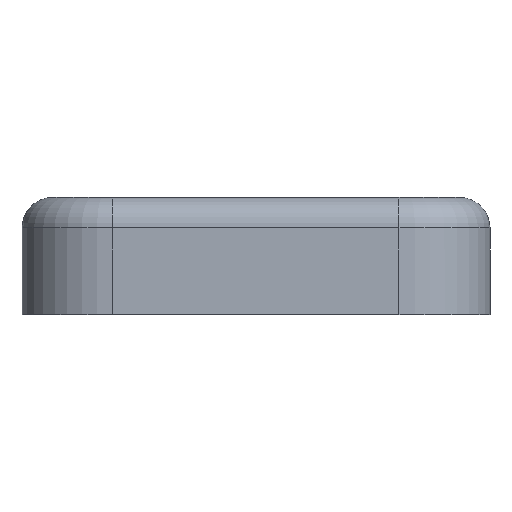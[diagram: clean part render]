
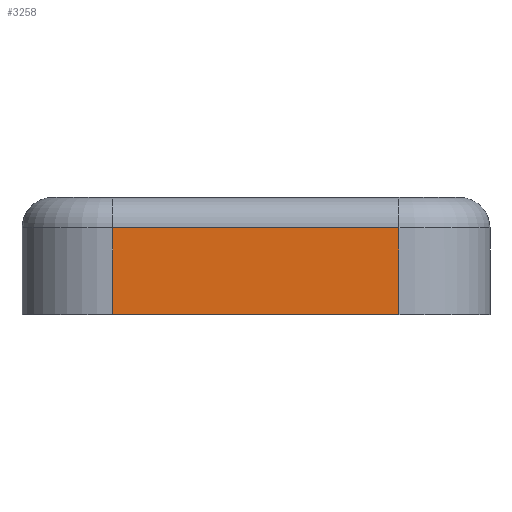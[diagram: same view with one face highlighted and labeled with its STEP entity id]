
A CAD part, front view. The second image highlights one B-rep face of the part: STEP entity #3258.
In plain terms, the highlighted planar face has unit normal (0, -1, 0).
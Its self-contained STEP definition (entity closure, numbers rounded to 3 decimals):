
#184=LINE('',#4671,#511);
#345=LINE('',#5165,#672);
#348=LINE('',#5178,#675);
#456=LINE('',#5481,#783);
#511=VECTOR('',#3697,10.);
#672=VECTOR('',#4124,10.);
#675=VECTOR('',#4143,10.);
#783=VECTOR('',#4517,10.);
#955=FACE_OUTER_BOUND('',#1162,.T.);
#1162=EDGE_LOOP('',(#2983,#2984,#2985,#2986));
#1355=VERTEX_POINT('',#4668);
#1356=VERTEX_POINT('',#4670);
#1545=VERTEX_POINT('',#5159);
#1546=VERTEX_POINT('',#5163);
#1667=EDGE_CURVE('',#1355,#1356,#184,.T.);
#1912=EDGE_CURVE('',#1545,#1546,#345,.T.);
#1919=EDGE_CURVE('',#1356,#1545,#348,.T.);
#2058=EDGE_CURVE('',#1546,#1355,#456,.T.);
#2983=ORIENTED_EDGE('',*,*,#1912,.F.);
#2984=ORIENTED_EDGE('',*,*,#1919,.F.);
#2985=ORIENTED_EDGE('',*,*,#1667,.F.);
#2986=ORIENTED_EDGE('',*,*,#2058,.F.);
#3086=PLANE('',#3578);
#3258=ADVANCED_FACE('',(#955),#3086,.T.);
#3578=AXIS2_PLACEMENT_3D('',#5482,#4518,#4519);
#3697=DIRECTION('',(-1.,0.,0.));
#4124=DIRECTION('',(1.,0.,0.));
#4143=DIRECTION('',(0.,0.,1.));
#4517=DIRECTION('',(0.,0.,-1.));
#4518=DIRECTION('center_axis',(0.,-1.,0.));
#4519=DIRECTION('ref_axis',(1.,0.,0.));
#4668=CARTESIAN_POINT('',(136.923,-139.481,-1.8));
#4670=CARTESIAN_POINT('',(103.923,-139.481,-1.8));
#4671=CARTESIAN_POINT('',(136.923,-139.481,-1.8));
#5159=CARTESIAN_POINT('',(103.923,-139.481,8.2));
#5163=CARTESIAN_POINT('',(136.923,-139.481,8.2));
#5165=CARTESIAN_POINT('',(112.173,-139.481,8.2));
#5178=CARTESIAN_POINT('',(103.923,-139.481,-0.8));
#5481=CARTESIAN_POINT('',(136.923,-139.481,-0.8));
#5482=CARTESIAN_POINT('Origin',(103.923,-139.481,-0.8));
